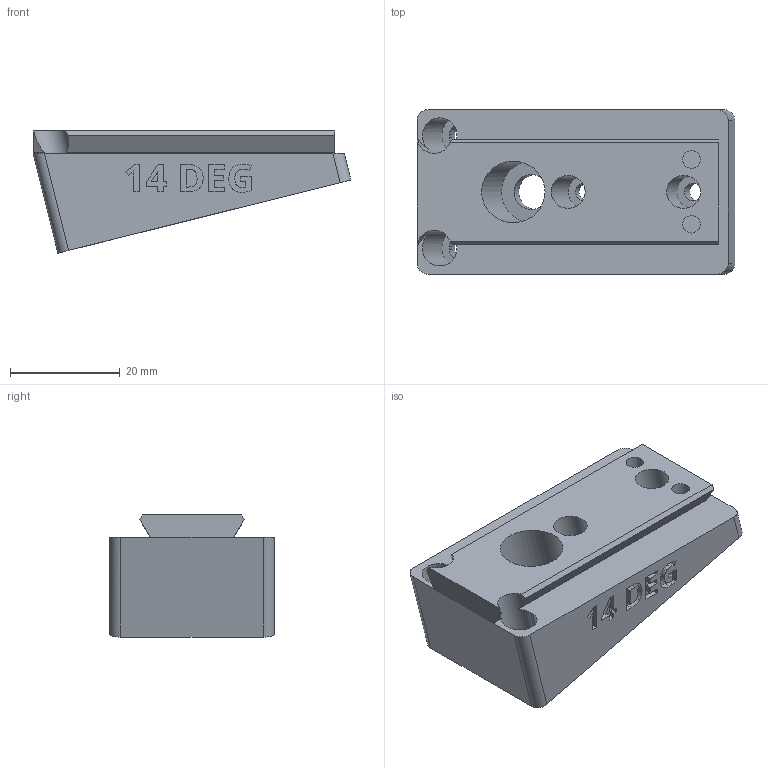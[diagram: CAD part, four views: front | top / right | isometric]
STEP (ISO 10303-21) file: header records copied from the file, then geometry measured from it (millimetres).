
FILE_DESCRIPTION(/* description */ ('STEP AP242 Edition 2','CAx-IF Rec.Pracs.---Representation and Presentation of Product Manufacturing Information (PMI)---4.0---2014-10-13','CAx-IF Rec.Pracs.---3D Tessellated Geometry---0.4---2014-09-14','2;1','CAx-IF Rec.Pracs.---User Defined Attributes---1.5---2016-08-15'),/* implementation_level */ '2;1');
FILE_NAME(/* name */ 'Camera Wedges - CAMERA MOUNTING WEDGE, POS, 14 DEG',/* time_stamp */ '2026-07-08T20:37:49Z',/* author */ (''),/* organization */ (''),/* preprocessor_version */ 'ST-DEVELOPER v20',/* originating_system */ 'ONSHAPE BY PTC INC, 1.217',/* authorisation */ ' ');
FILE_SCHEMA (('AP242_MANAGED_MODEL_BASED_3D_ENGINEERING_MIM_LF { 1 0 10303 442 3 1 4 }'));
Length unit declared in the file: metre
Products named in the file (1): CAMERA MOUNTING WEDGE, POS, 14 DEG
Bounding box: 57.89 x 30 x 22.26 mm (x, y, z)
Volume: 19364.1 mm3; surface area: 8032.9 mm2
Topology: 1 solids, 1 shells, 233 faces, 634 edges, 423 vertices
Faces by surface type: plane 161, cylinder 42, bspline 30
Full cylindrical faces by diameter (mm): 3.2 x4, 6 x2, 6.4 x1, 11.2 x1
Entity records: 7387 total; most frequent: CARTESIAN_POINT 1607, ORIENTED_EDGE 1246, DIRECTION 1067, EDGE_CURVE 623, LINE 467, VECTOR 467, VERTEX_POINT 420, AXIS2_PLACEMENT_3D 300
